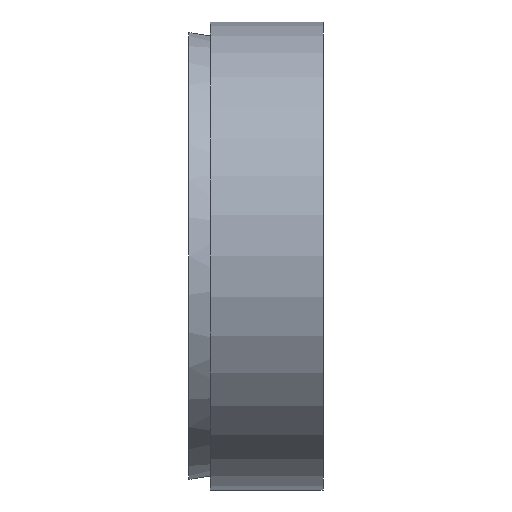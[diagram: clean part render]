
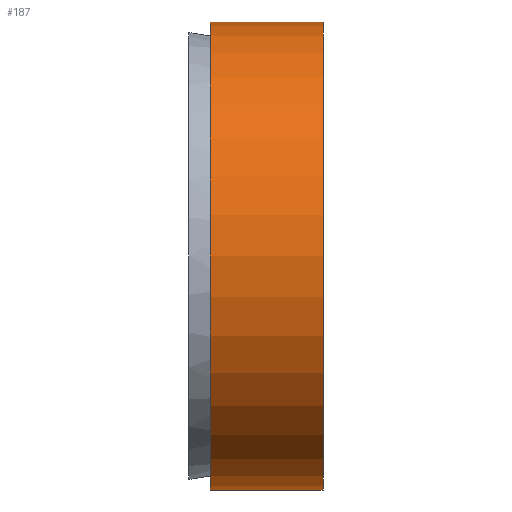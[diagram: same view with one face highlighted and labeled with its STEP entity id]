
A CAD part, front view. The second image highlights one B-rep face of the part: STEP entity #187.
In plain terms, the highlighted cylindrical face has radius 11 mm (diameter 22 mm), a partial arc.
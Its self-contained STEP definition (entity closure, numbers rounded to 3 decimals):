
#56 = EDGE_LOOP ( 'NONE', ( #188, #189, #191, #192 ) ) ;
#157 = VERTEX_POINT ( 'NONE', #359 ) ;
#160 = VERTEX_POINT ( 'NONE', #353 ) ;
#161 = VERTEX_POINT ( 'NONE', #352 ) ;
#163 = VERTEX_POINT ( 'NONE', #351 ) ;
#166 = EDGE_CURVE ( 'NONE', #163, #157, #345, .T. ) ;
#183 = EDGE_CURVE ( 'NONE', #161, #160, #341, .T. ) ;
#186 = EDGE_CURVE ( 'NONE', #157, #160, #337, .T. ) ;
#187 = ADVANCED_FACE ( 'NONE', ( #332 ), #331, .T. ) ;
#188 = ORIENTED_EDGE ( 'NONE', *, *, #166, .F. ) ;
#189 = ORIENTED_EDGE ( 'NONE', *, *, #190, .T. ) ;
#190 = EDGE_CURVE ( 'NONE', #163, #161, #330, .T. ) ;
#191 = ORIENTED_EDGE ( 'NONE', *, *, #183, .T. ) ;
#192 = ORIENTED_EDGE ( 'NONE', *, *, #186, .F. ) ;
#322 = DIRECTION ( 'NONE',  ( 0., 0., 1. ) ) ;
#323 = DIRECTION ( 'NONE',  ( -1., 0., 0. ) ) ;
#324 = CARTESIAN_POINT ( 'NONE',  ( 6.3, 0., 0. ) ) ;
#325 = AXIS2_PLACEMENT_3D ( 'NONE', #324, #323, #322 ) ;
#326 = DIRECTION ( 'NONE',  ( 0., 0., 1. ) ) ;
#327 = DIRECTION ( 'NONE',  ( -1., 0., 0. ) ) ;
#328 = CARTESIAN_POINT ( 'NONE',  ( 0., 0., 0. ) ) ;
#329 = AXIS2_PLACEMENT_3D ( 'NONE', #328, #327, #326 ) ;
#330 = CIRCLE ( 'NONE', #325, 11. ) ;
#331 = CYLINDRICAL_SURFACE ( 'NONE', #329, 11. ) ;
#332 = FACE_OUTER_BOUND ( 'NONE', #56, .T. ) ;
#333 = DIRECTION ( 'NONE',  ( 0., 0., 1. ) ) ;
#334 = DIRECTION ( 'NONE',  ( -1., 0., 0. ) ) ;
#335 = CARTESIAN_POINT ( 'NONE',  ( 1., 0., 0. ) ) ;
#336 = AXIS2_PLACEMENT_3D ( 'NONE', #335, #334, #333 ) ;
#337 = CIRCLE ( 'NONE', #336, 11. ) ;
#338 = DIRECTION ( 'NONE',  ( -1., 0., 0. ) ) ;
#339 = VECTOR ( 'NONE', #338, 1000. ) ;
#340 = CARTESIAN_POINT ( 'NONE',  ( 0., 0., 11. ) ) ;
#341 = LINE ( 'NONE', #340, #339 ) ;
#342 = DIRECTION ( 'NONE',  ( -1., 0., 0. ) ) ;
#343 = VECTOR ( 'NONE', #342, 1000. ) ;
#344 = CARTESIAN_POINT ( 'NONE',  ( 0., 0., -11. ) ) ;
#345 = LINE ( 'NONE', #344, #343 ) ;
#351 = CARTESIAN_POINT ( 'NONE',  ( 6.3, 0., -11. ) ) ;
#352 = CARTESIAN_POINT ( 'NONE',  ( 6.3, 0., 11. ) ) ;
#353 = CARTESIAN_POINT ( 'NONE',  ( 1., 0., 11. ) ) ;
#359 = CARTESIAN_POINT ( 'NONE',  ( 1., 0., -11. ) ) ;
